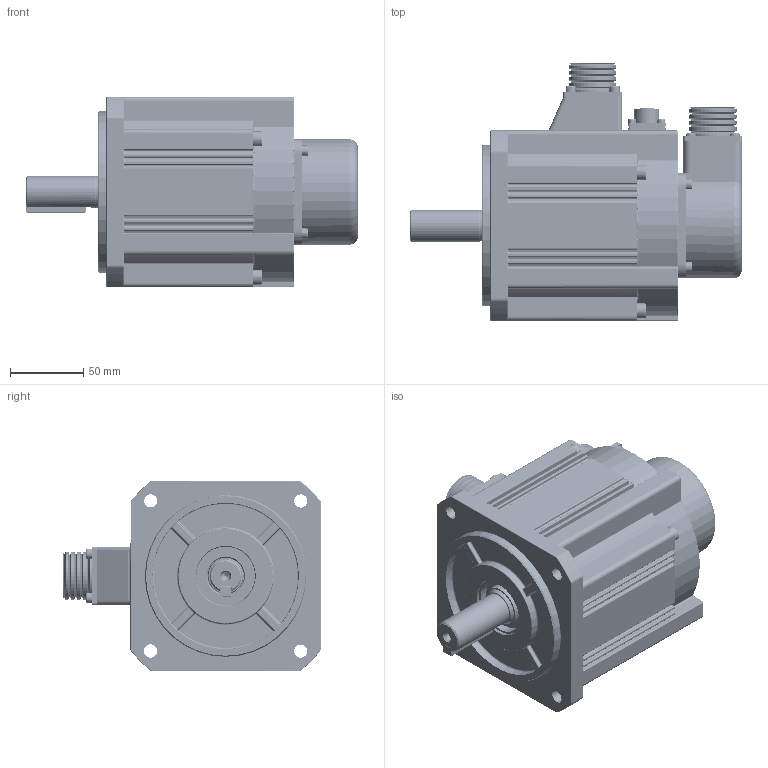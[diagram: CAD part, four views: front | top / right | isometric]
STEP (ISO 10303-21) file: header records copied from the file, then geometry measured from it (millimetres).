
FILE_DESCRIPTION((''),'2;1');
FILE_NAME('11101-01209_ASM','2024-01-23T18:56:03',('admin'),(''),'CREO PARAMETRIC BY PTC INC, 2019080','CREO PARAMETRIC BY PTC INC, 2019080','');
FILE_SCHEMA(('CONFIG_CONTROL_DESIGN'));
Products named in the file (105): 80040368_AF0; 66670023_AF0; 77840015_AF0; 77840005_AF0; 15CDZZJ_AF13_ASM; 66670023_AF1; 77840015_AF1; 77840005_AF1; 15CDZZJ_AF14_ASM; 66670023_AF2; 77840015_AF2; 77840005_AF2; 15CDZZJ_AF15_ASM; 66670023_AF3; 77840015_AF3; 77840005_AF3; 15CDZZJ_AF16_ASM; 66670023_AF4; 77840015_AF4; 77840005_AF4; 15CDZZJ_AF17_ASM; 66670023_AF5; 77840015_AF5; 77840005_AF5; 15CDZZJ_AF18_ASM; 66670023_AF6; 77840015_AF6; 77840005_AF6; 15CDZZJ_AF19_ASM; 66670023_AF7; 77840015_AF7; 77840005_AF7; 15CDZZJ_AF20_ASM; 66670023_AF8; 77840015_AF8; 77840005_AF8; 15CDZZJ_AF21_ASM; 66670023_AF9; 77840015_AF9; 77840005_AF9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
Assembly tree (110 placements, depth 6):
  11101-01209_ASM
    12112-00990_AF0_ASM
      80040368_AF0
      15CDZZJ_AF13_ASM
        66670023_AF0
        77840015_AF0
        77840005_AF0
      15CDZZJ_AF14_ASM
        66670023_AF1
        77840015_AF1
        77840005_AF1
      15CDZZJ_AF15_ASM
        66670023_AF2
        77840015_AF2
        77840005_AF2
      15CDZZJ_AF16_ASM
        66670023_AF3
        77840015_AF3
        77840005_AF3
      15CDZZJ_AF17_ASM
        66670023_AF4
        77840015_AF4
        77840005_AF4
      15CDZZJ_AF18_ASM
        66670023_AF5
        77840015_AF5
        77840005_AF5
      15CDZZJ_AF19_ASM
        66670023_AF6
        77840015_AF6
        77840005_AF6
      15CDZZJ_AF20_ASM
        66670023_AF7
        77840015_AF7
        77840005_AF7
      15CDZZJ_AF21_ASM
        66670023_AF8
        77840015_AF8
        77840005_AF8
      15CDZZJ_AF22_ASM
        66670023_AF9
        77840015_AF9
        77840005_AF9
      15CDZZJ_AF23_ASM
        66670023_AF10
        77840015_AF10
        77840005_AF10
      15CDZZJ_AF24_ASM
        66670023_AF11
        77840015_AF11
        77840005_AF11
      PCB_AF0
    12111-00726_AF0_ASM
      80100287_AF0
      6004-ZZ_AF0
      Z042-S130B-24V-18G25_AF0_ASM
        Z042-S130B-24V-18G0001_AF0_ASM
          Z032-S130B-20-1_AF0
          CROSS-RECESSED-COUNTERSUNK-HEAD_AF0
          DWT-5-3X8-5X10-75-1_AF0
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Bounding box: 226.7 x 176.07 x 130.11 mm (x, y, z)
Volume: 542774.6 mm3; surface area: 285040.3 mm2
Topology: 31 solids, 57 shells, 4181 faces, 10988 edges, 7005 vertices
Faces by surface type: cylinder 1719, plane 1644, torus 300, bspline 291, cone 141, sphere 86
Entity records: 160023 total; most frequent: CARTESIAN_POINT 68083, ORIENTED_EDGE 19082, DIRECTION 18479, EDGE_CURVE 9593, AXIS2_PLACEMENT_3D 6410, VERTEX_POINT 6135, VECTOR 5659, LINE 5659
